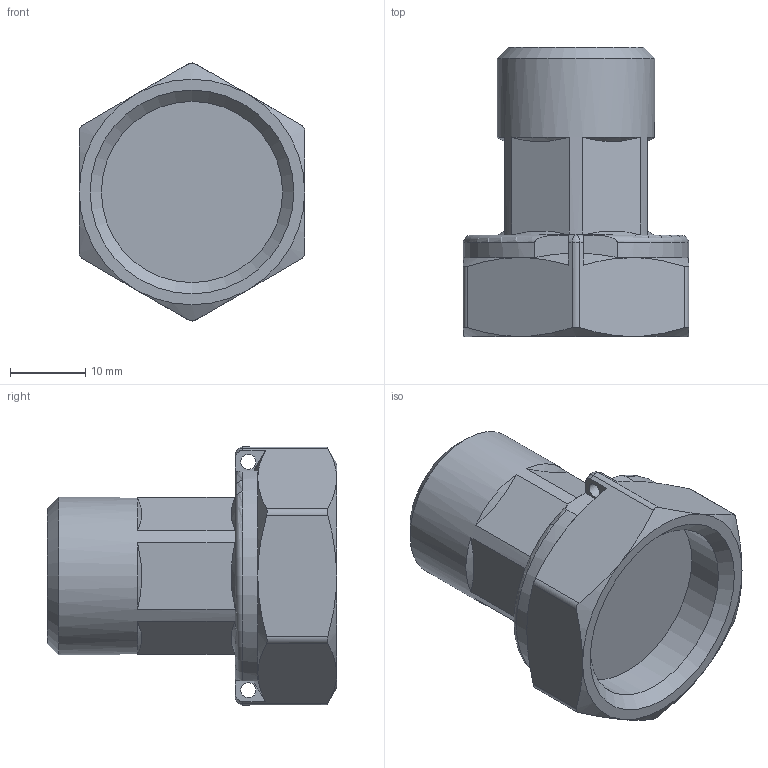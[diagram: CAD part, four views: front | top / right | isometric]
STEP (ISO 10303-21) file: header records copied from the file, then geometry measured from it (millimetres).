
FILE_DESCRIPTION(('STEP AP203'), '1');
FILE_NAME('覆.302638.004.000 捘 - VTr.612.N.0004', '2024-07-10T07:41:49', ('Boss'), (''), 'C3D Converter', 'C3D Toolkit', '');
FILE_SCHEMA(('CONFIG_CONTROL_DESIGN'));
Length unit declared in the file: millimetre
Products named in the file (1): ВР.302638.004.000 СБ
Bounding box: 30 x 38.5 x 34.33 mm (x, y, z)
Volume: 15215.5 mm3; surface area: 5243.1 mm2
Topology: 1 solids, 1 shells, 86 faces, 206 edges, 129 vertices
Faces by surface type: plane 40, cone 25, cylinder 17, torus 2, sphere 2
Full cylindrical faces by diameter (mm): 2 x2, 20.955 x1, 21.5 x1, 24.118 x1
Entity records: 4232 total; most frequent: CARTESIAN_POINT 2308, ORIENTED_EDGE 398, DIRECTION 361, EDGE_CURVE 199, AXIS2_PLACEMENT_3D 134, VERTEX_POINT 129, EDGE_LOOP 104, FACE_BOUND 94
